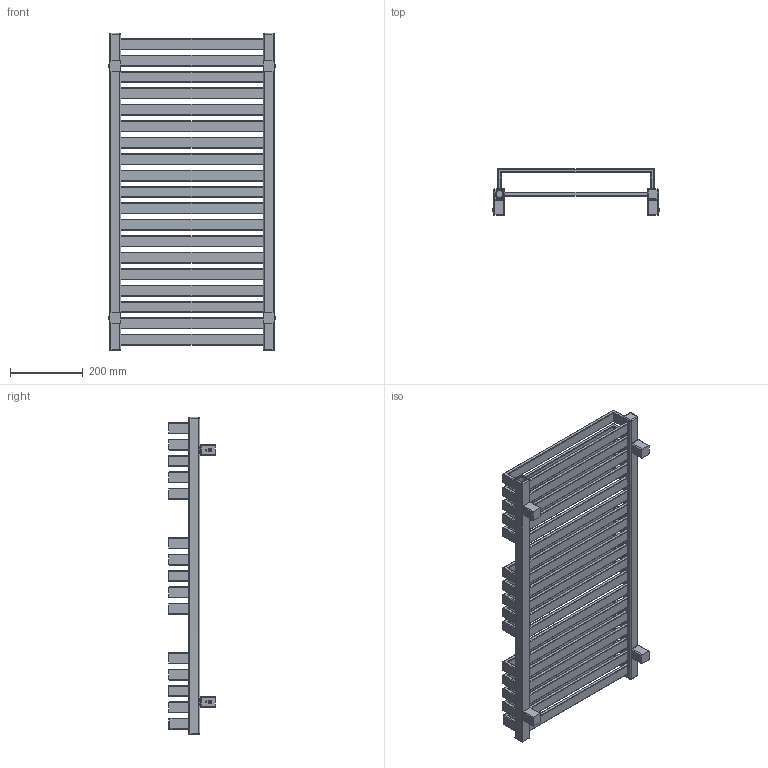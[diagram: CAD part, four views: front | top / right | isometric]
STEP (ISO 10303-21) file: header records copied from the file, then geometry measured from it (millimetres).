
FILE_DESCRIPTION((''),'2;1');
FILE_NAME('Z:\R\G\P\RGP093 - Grzejnik Quadrus Bold 2012\Work\Inventor\Marketing\Modele AutoCAD\QBA-870-450 S5.stp','2012-07-02T07:50:09',('KurKa'),(''),'Autodesk Inventor 2012','Autodesk Inventor 2012','');
FILE_SCHEMA(('AUTOMOTIVE_DESIGN { 1 0 10303 214 1 1 1 1 }'));
Length unit declared in the file: millimetre
Products named in the file (3): QBA-870-450 S5; MMT42_marketing
Assembly tree (5 placements, depth 2):
  QBA-870-450 S5
    QBA-870-450 S5
    MMT42_marketing  x4
Bounding box: 456 x 127 x 870 mm (x, y, z)
Volume: 6215337.8 mm3; surface area: 1391138 mm2
Topology: 5 solids, 5 shells, 699 faces, 1809 edges, 1133 vertices
Faces by surface type: cylinder 333, plane 311, cone 27, sphere 16, torus 8, bspline 4
Full cylindrical faces by diameter (mm): 4.509 x4, 12 x4, 18.631 x3
Entity records: 17677 total; most frequent: CARTESIAN_POINT 3302, DIRECTION 3088, ORIENTED_EDGE 2916, EDGE_CURVE 1458, AXIS2_PLACEMENT_3D 1066, VECTOR 956, LINE 956, VERTEX_POINT 916
